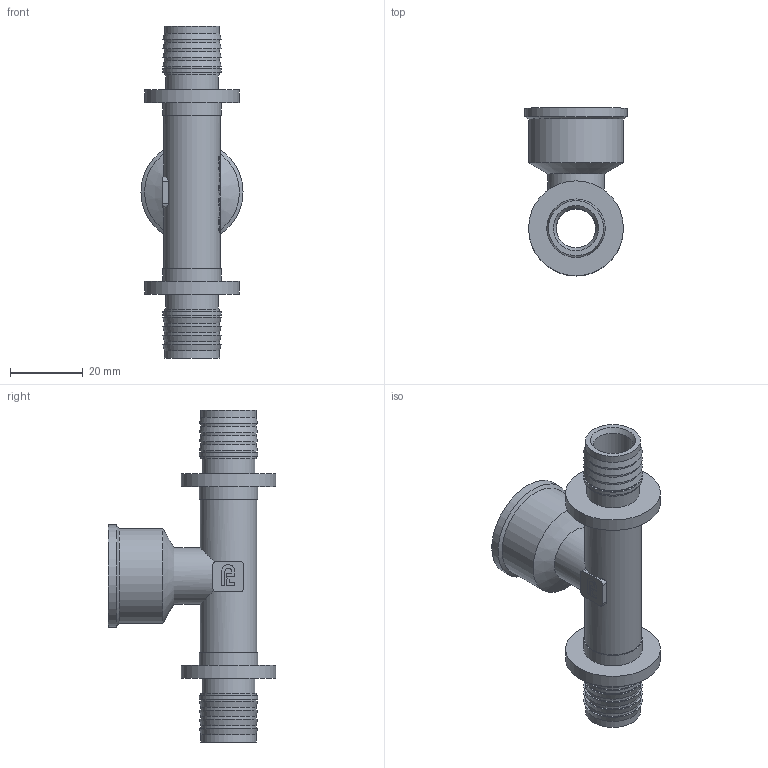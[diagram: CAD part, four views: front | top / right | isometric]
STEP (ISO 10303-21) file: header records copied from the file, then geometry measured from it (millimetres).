
FILE_DESCRIPTION(/* description */ (''),/* implementation_level */ '2;1');
FILE_NAME(/* name */ 'C:\Users\Doom\Desktop\Фадотех\Натяжка\FD-SFT32 NEW 20x0.5Fx20 18.12.2019\FD-SFT32 NEW 20x0.5Fx20 18.12.2019.stp',/* time_stamp */ '2022-07-24T19:40:21+03:00',/* author */ ('Doom'),/* organization */ (''),/* preprocessor_version */ 'ST-DEVELOPER v18',/* originating_system */ 'Autodesk Inventor 2020',/* authorisation */ '');
FILE_SCHEMA (('AUTOMOTIVE_DESIGN { 1 0 10303 214 3 1 1 }'));
Length unit declared in the file: millimetre
Products named in the file (1): FD-SFT32 NEW 20x0.5Fx20 18.12.2019
Bounding box: 28 x 46 x 91 mm (x, y, z)
Volume: 16475.7 mm3; surface area: 16399 mm2
Topology: 2 solids, 2 shells, 237 faces, 646 edges, 445 vertices
Faces by surface type: bspline 98, plane 76, cylinder 50, cone 13
Full cylindrical faces by diameter (mm): 10.5 x1, 10.8 x1, 14.5 x2, 15.1 x12, 15.5 x2, 16 x4, 18.26 x9, 20.95 x2, 26 x3, 28 x1
Entity records: 14256 total; most frequent: CARTESIAN_POINT 8739, ORIENTED_EDGE 1284, DIRECTION 862, EDGE_CURVE 642, VERTEX_POINT 443, AXIS2_PLACEMENT_3D 303, EDGE_LOOP 277, LINE 256
